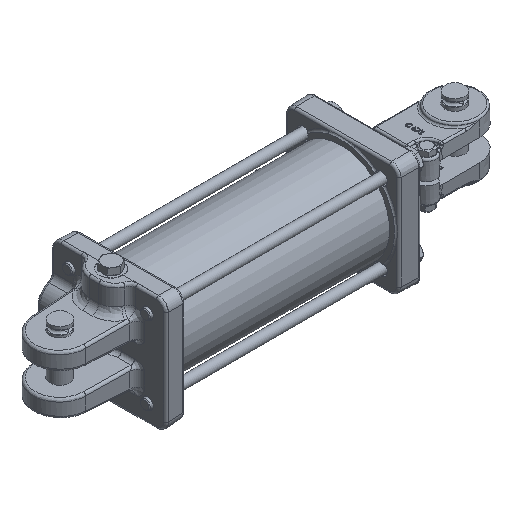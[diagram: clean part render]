
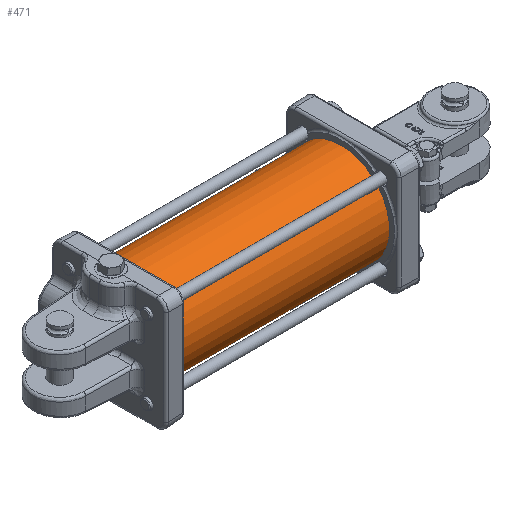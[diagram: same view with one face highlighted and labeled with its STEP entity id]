
A CAD part, isometric view. The second image highlights one B-rep face of the part: STEP entity #471.
In plain terms, the highlighted cylindrical face has radius 63.5 mm (diameter 127 mm), a full revolution.
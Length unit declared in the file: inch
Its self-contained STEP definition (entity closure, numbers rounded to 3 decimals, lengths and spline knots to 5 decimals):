
#210=CARTESIAN_POINT('',(-1.029,2.49941,0.0545));
#211=VERTEX_POINT('',#210);
#212=CARTESIAN_POINT('',(-1.029,2.49941,0.0545));
#213=CARTESIAN_POINT('',(-1.03584,2.49941,0.0545));
#214=CARTESIAN_POINT('',(-1.04314,2.49944,0.05313));
#215=CARTESIAN_POINT('',(-1.05657,2.49955,0.04757));
#216=CARTESIAN_POINT('',(-1.0627,2.49963,0.04338));
#217=CARTESIAN_POINT('',(-1.07238,2.49978,0.0337));
#218=CARTESIAN_POINT('',(-1.07657,2.49986,0.02757));
#219=CARTESIAN_POINT('',(-1.08213,2.49997,0.01414));
#220=CARTESIAN_POINT('',(-1.0835,2.5,0.00684));
#221=CARTESIAN_POINT('',(-1.0835,2.5,-0.00684));
#222=CARTESIAN_POINT('',(-1.08213,2.49997,-0.01414));
#223=CARTESIAN_POINT('',(-1.07657,2.49986,-0.02757));
#224=CARTESIAN_POINT('',(-1.07238,2.49978,-0.0337));
#225=CARTESIAN_POINT('',(-1.0627,2.49963,-0.04338));
#226=CARTESIAN_POINT('',(-1.05657,2.49955,-0.04757));
#227=CARTESIAN_POINT('',(-1.04314,2.49944,-0.05313));
#228=CARTESIAN_POINT('',(-1.03584,2.49941,-0.0545));
#229=CARTESIAN_POINT('',(-1.02216,2.49941,-0.0545));
#230=CARTESIAN_POINT('',(-1.01486,2.49944,-0.05313));
#231=CARTESIAN_POINT('',(-1.00143,2.49955,-0.04757));
#232=CARTESIAN_POINT('',(-0.9953,2.49963,-0.04338));
#233=CARTESIAN_POINT('',(-0.98562,2.49978,-0.0337));
#234=CARTESIAN_POINT('',(-0.98143,2.49986,-0.02757));
#235=CARTESIAN_POINT('',(-0.97587,2.49997,-0.01414));
#236=CARTESIAN_POINT('',(-0.9745,2.5,-0.00684));
#237=CARTESIAN_POINT('',(-0.9745,2.5,0.00684));
#238=CARTESIAN_POINT('',(-0.97587,2.49997,0.01414));
#239=CARTESIAN_POINT('',(-0.98143,2.49986,0.02757));
#240=CARTESIAN_POINT('',(-0.98562,2.49978,0.0337));
#241=CARTESIAN_POINT('',(-0.9953,2.49963,0.04338));
#242=CARTESIAN_POINT('',(-1.00143,2.49955,0.04757));
#243=CARTESIAN_POINT('',(-1.01486,2.49944,0.05313));
#244=CARTESIAN_POINT('',(-1.02216,2.49941,0.0545));
#245=CARTESIAN_POINT('',(-1.029,2.49941,0.0545));
#246=B_SPLINE_CURVE_WITH_KNOTS('',3,(#212,#213,#214,#215,#216,#217,#218,#219,#220,#221,#222,#223,#224,#225,#226,#227,#228,#229,#230,#231,#232,#233,#234,#235,#236,#237,#238,#239,#240,#241,#242,#243,#244,#245),.UNSPECIFIED.,.T.,.U.,(4,2,2,2,2,2,2,2,2,2,2,2,2,2,2,2,4),(0.0,0.05215,0.10429,0.15644,0.20859,0.26073,0.31288,0.36503,0.41717,0.46932,0.52147,0.57361,0.62576,0.6779,0.73005,0.7822,0.83434),.UNSPECIFIED.);
#247=EDGE_CURVE('',#211,#211,#246,.T.);
#298=CARTESIAN_POINT('',(-1.409,2.49981,0.031));
#299=VERTEX_POINT('',#298);
#300=CARTESIAN_POINT('',(-1.409,2.49981,0.031));
#301=CARTESIAN_POINT('',(-1.41289,2.49981,0.031));
#302=CARTESIAN_POINT('',(-1.41704,2.49982,0.03022));
#303=CARTESIAN_POINT('',(-1.42468,2.49985,0.02706));
#304=CARTESIAN_POINT('',(-1.42817,2.49988,0.02467));
#305=CARTESIAN_POINT('',(-1.43367,2.49993,0.01917));
#306=CARTESIAN_POINT('',(-1.43606,2.49995,0.01568));
#307=CARTESIAN_POINT('',(-1.43922,2.49999,0.00804));
#308=CARTESIAN_POINT('',(-1.44,2.5,0.00389));
#309=CARTESIAN_POINT('',(-1.44,2.5,-0.00389));
#310=CARTESIAN_POINT('',(-1.43922,2.49999,-0.00804));
#311=CARTESIAN_POINT('',(-1.43606,2.49995,-0.01568));
#312=CARTESIAN_POINT('',(-1.43367,2.49993,-0.01917));
#313=CARTESIAN_POINT('',(-1.42817,2.49988,-0.02467));
#314=CARTESIAN_POINT('',(-1.42468,2.49985,-0.02706));
#315=CARTESIAN_POINT('',(-1.41704,2.49982,-0.03022));
#316=CARTESIAN_POINT('',(-1.41289,2.49981,-0.031));
#317=CARTESIAN_POINT('',(-1.40511,2.49981,-0.031));
#318=CARTESIAN_POINT('',(-1.40096,2.49982,-0.03022));
#319=CARTESIAN_POINT('',(-1.39332,2.49985,-0.02706));
#320=CARTESIAN_POINT('',(-1.38983,2.49988,-0.02467));
#321=CARTESIAN_POINT('',(-1.38433,2.49993,-0.01917));
#322=CARTESIAN_POINT('',(-1.38194,2.49995,-0.01568));
#323=CARTESIAN_POINT('',(-1.37878,2.49999,-0.00804));
#324=CARTESIAN_POINT('',(-1.378,2.5,-0.00389));
#325=CARTESIAN_POINT('',(-1.378,2.5,0.00389));
#326=CARTESIAN_POINT('',(-1.37878,2.49999,0.00804));
#327=CARTESIAN_POINT('',(-1.38194,2.49995,0.01568));
#328=CARTESIAN_POINT('',(-1.38433,2.49993,0.01917));
#329=CARTESIAN_POINT('',(-1.38983,2.49988,0.02467));
#330=CARTESIAN_POINT('',(-1.39332,2.49985,0.02706));
#331=CARTESIAN_POINT('',(-1.40096,2.49982,0.03022));
#332=CARTESIAN_POINT('',(-1.40511,2.49981,0.031));
#333=CARTESIAN_POINT('',(-1.409,2.49981,0.031));
#334=B_SPLINE_CURVE_WITH_KNOTS('',3,(#300,#301,#302,#303,#304,#305,#306,#307,#308,#309,#310,#311,#312,#313,#314,#315,#316,#317,#318,#319,#320,#321,#322,#323,#324,#325,#326,#327,#328,#329,#330,#331,#332,#333),.UNSPECIFIED.,.T.,.U.,(4,2,2,2,2,2,2,2,2,2,2,2,2,2,2,2,4),(0.0,0.02966,0.05932,0.08898,0.11864,0.1483,0.17796,0.20762,0.23729,0.26695,0.29661,0.32627,0.35593,0.38559,0.41525,0.44491,0.47457),.UNSPECIFIED.);
#335=EDGE_CURVE('',#299,#299,#334,.T.);
#345=CARTESIAN_POINT('',(0.,2.5,0.0));
#346=VERTEX_POINT('',#345);
#347=CARTESIAN_POINT('',(0.,0.0,0.0));
#348=DIRECTION('',(1.0,0.0,0.0));
#349=DIRECTION('',(0.0,1.0,0.0));
#350=AXIS2_PLACEMENT_3D('',#347,#348,#349);
#351=CIRCLE('',#350,2.5);
#352=EDGE_CURVE('',#346,#346,#351,.T.);
#439=CARTESIAN_POINT('',(-10.844,2.5,0.0));
#440=VERTEX_POINT('',#439);
#441=CARTESIAN_POINT('',(-10.844,0.0,0.0));
#442=DIRECTION('',(1.0,0.0,0.0));
#443=DIRECTION('',(0.0,1.0,0.0));
#444=AXIS2_PLACEMENT_3D('',#441,#442,#443);
#445=CIRCLE('',#444,2.5);
#446=EDGE_CURVE('',#440,#440,#445,.T.);
#454=CARTESIAN_POINT('',(-5.422,0.0,0.0));
#455=DIRECTION('',(1.0,0.0,0.0));
#456=DIRECTION('',(0.0,1.0,0.0));
#457=AXIS2_PLACEMENT_3D('',#454,#455,#456);
#458=CYLINDRICAL_SURFACE('',#457,2.5);
#459=ORIENTED_EDGE('',*,*,#352,.F.);
#460=EDGE_LOOP('',(#459));
#461=FACE_OUTER_BOUND('',#460,.T.);
#462=ORIENTED_EDGE('',*,*,#247,.T.);
#463=EDGE_LOOP('',(#462));
#464=FACE_BOUND('',#463,.T.);
#465=ORIENTED_EDGE('',*,*,#335,.T.);
#466=EDGE_LOOP('',(#465));
#467=FACE_BOUND('',#466,.T.);
#468=ORIENTED_EDGE('',*,*,#446,.T.);
#469=EDGE_LOOP('',(#468));
#470=FACE_BOUND('',#469,.T.);
#471=ADVANCED_FACE('',(#461,#464,#467,#470),#458,.T.);
